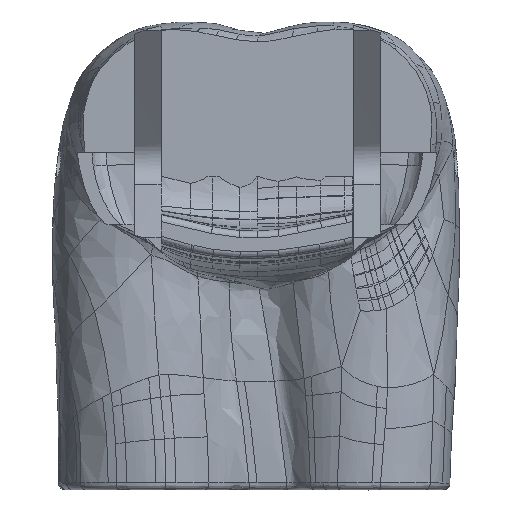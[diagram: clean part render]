
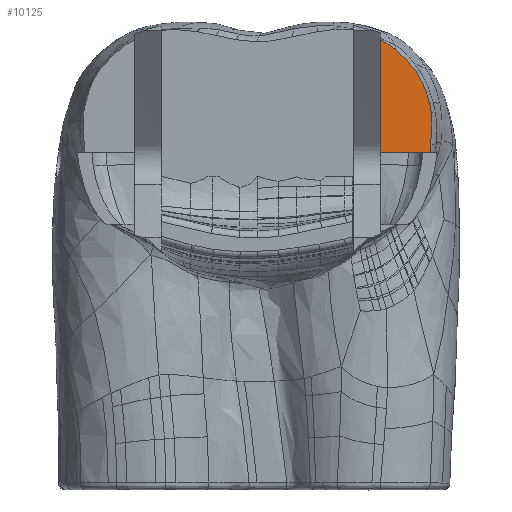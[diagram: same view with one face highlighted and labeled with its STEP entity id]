
A CAD part, top view. The second image highlights one B-rep face of the part: STEP entity #10125.
In plain terms, the highlighted planar face has unit normal (0, 0, 1).
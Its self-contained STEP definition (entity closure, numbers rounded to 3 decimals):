
#100=PLANE('',#10790);
#193=FACE_OUTER_BOUND('',#879,.T.);
#879=EDGE_LOOP('',(#6431,#6432,#6433,#6434,#6435,#6436,#6437,#6438));
#1724=B_SPLINE_CURVE_WITH_KNOTS('',3,(#18071,#18072,#18073,#18074,#18075,
#18076,#18077,#18078,#18079,#18080,#18081,#18082,#18083,#18084,#18085,#18086),
 .UNSPECIFIED.,.F.,.F.,(4,3,3,3,3,4),(0.,0.187,0.375,
0.531,0.687,1.),.UNSPECIFIED.);
#1725=B_SPLINE_CURVE_WITH_KNOTS('',3,(#18088,#18089,#18090,#18091,#18092,
#18093,#18094,#18095,#18096,#18097),.UNSPECIFIED.,.F.,.F.,(4,3,3,4),(0.,
0.089,0.544,1.),.UNSPECIFIED.);
#1726=B_SPLINE_CURVE_WITH_KNOTS('',3,(#18102,#18103,#18104,#18105),
 .UNSPECIFIED.,.F.,.F.,(4,4),(0.,1.),.UNSPECIFIED.);
#1727=B_SPLINE_CURVE_WITH_KNOTS('',3,(#18107,#18108,#18109,#18110,#18111,
#18112,#18113,#18114,#18115,#18116,#18117,#18118,#18119,#18120,#18121,#18122,
#18123,#18124,#18125,#18126,#18127,#18128),.UNSPECIFIED.,.F.,.F.,(4,3,3,
3,3,3,3,4),(-1.,-0.828,-0.657,-0.606,
-0.555,-0.416,-0.277,0.),
 .UNSPECIFIED.);
#1728=B_SPLINE_CURVE_WITH_KNOTS('',3,(#18130,#18131,#18132,#18133),
 .UNSPECIFIED.,.F.,.F.,(4,4),(-1.,0.),.UNSPECIFIED.);
#1729=B_SPLINE_CURVE_WITH_KNOTS('',3,(#18134,#18135,#18136,#18137,#18138,
#18139,#18140,#18141,#18142,#18143),.UNSPECIFIED.,.F.,.F.,(4,3,3,4),(-1.,
-0.492,-0.136,0.),.UNSPECIFIED.);
#3121=LINE('',#18098,#3184);
#3122=LINE('',#18100,#3185);
#3184=VECTOR('',#10959,72.659);
#3185=VECTOR('',#10960,31.893);
#3417=VERTEX_POINT('',#18058);
#3422=VERTEX_POINT('',#18069);
#3423=VERTEX_POINT('',#18070);
#3424=VERTEX_POINT('',#18087);
#3425=VERTEX_POINT('',#18099);
#3426=VERTEX_POINT('',#18101);
#3427=VERTEX_POINT('',#18106);
#3428=VERTEX_POINT('',#18129);
#4534=EDGE_CURVE('',#3422,#3423,#1724,.T.);
#4535=EDGE_CURVE('',#3424,#3422,#1725,.T.);
#4536=EDGE_CURVE('',#3424,#3417,#3121,.F.);
#4537=EDGE_CURVE('',#3425,#3417,#3122,.T.);
#4538=EDGE_CURVE('',#3426,#3425,#1726,.T.);
#4539=EDGE_CURVE('',#3427,#3426,#1727,.T.);
#4540=EDGE_CURVE('',#3428,#3427,#1728,.T.);
#4541=EDGE_CURVE('',#3423,#3428,#1729,.T.);
#6431=ORIENTED_EDGE('',*,*,#4534,.F.);
#6432=ORIENTED_EDGE('',*,*,#4535,.F.);
#6433=ORIENTED_EDGE('',*,*,#4536,.T.);
#6434=ORIENTED_EDGE('',*,*,#4537,.F.);
#6435=ORIENTED_EDGE('',*,*,#4538,.F.);
#6436=ORIENTED_EDGE('',*,*,#4539,.F.);
#6437=ORIENTED_EDGE('',*,*,#4540,.F.);
#6438=ORIENTED_EDGE('',*,*,#4541,.F.);
#10125=ADVANCED_FACE('',(#193),#100,.F.);
#10790=AXIS2_PLACEMENT_3D('',#18068,#10957,#10958);
#10957=DIRECTION('center_axis',(0.,0.,-1.));
#10958=DIRECTION('ref_axis',(-1.,0.,0.));
#10959=DIRECTION('',(0.,1.,0.));
#10960=DIRECTION('',(-1.,0.,0.));
#18058=CARTESIAN_POINT('',(79.615,-83.94,-44.473));
#18068=CARTESIAN_POINT('Origin',(0.,-150.457,-44.473));
#18069=CARTESIAN_POINT('',(89.352,-17.809,-44.469));
#18070=CARTESIAN_POINT('',(102.8,-31.617,-44.473));
#18071=CARTESIAN_POINT('Ctrl Pts',(89.354,-17.808,-44.473));
#18072=CARTESIAN_POINT('Ctrl Pts',(90.295,-18.566,-44.473));
#18073=CARTESIAN_POINT('Ctrl Pts',(91.208,-19.359,-44.473));
#18074=CARTESIAN_POINT('Ctrl Pts',(92.098,-20.176,-44.473));
#18075=CARTESIAN_POINT('Ctrl Pts',(92.987,-20.992,-44.473));
#18076=CARTESIAN_POINT('Ctrl Pts',(93.854,-21.832,-44.473));
#18077=CARTESIAN_POINT('Ctrl Pts',(94.705,-22.685,-44.473));
#18078=CARTESIAN_POINT('Ctrl Pts',(95.415,-23.398,-44.473));
#18079=CARTESIAN_POINT('Ctrl Pts',(96.115,-24.12,-44.473));
#18080=CARTESIAN_POINT('Ctrl Pts',(96.805,-24.851,-44.473));
#18081=CARTESIAN_POINT('Ctrl Pts',(97.495,-25.582,-44.473));
#18082=CARTESIAN_POINT('Ctrl Pts',(98.176,-26.321,-44.473));
#18083=CARTESIAN_POINT('Ctrl Pts',(98.849,-27.068,-44.473));
#18084=CARTESIAN_POINT('Ctrl Pts',(100.193,-28.56,-44.473));
#18085=CARTESIAN_POINT('Ctrl Pts',(101.506,-30.08,-44.473));
#18086=CARTESIAN_POINT('Ctrl Pts',(102.798,-31.615,-44.473));
#18087=CARTESIAN_POINT('',(79.623,-11.281,-44.473));
#18088=CARTESIAN_POINT('Ctrl Pts',(79.623,-11.281,-44.473));
#18089=CARTESIAN_POINT('Ctrl Pts',(79.942,-11.421,-44.473));
#18090=CARTESIAN_POINT('Ctrl Pts',(80.254,-11.579,-44.473));
#18091=CARTESIAN_POINT('Ctrl Pts',(80.563,-11.742,-44.473));
#18092=CARTESIAN_POINT('Ctrl Pts',(82.14,-12.577,-44.473));
#18093=CARTESIAN_POINT('Ctrl Pts',(83.63,-13.558,-44.473));
#18094=CARTESIAN_POINT('Ctrl Pts',(85.103,-14.566,-44.473));
#18095=CARTESIAN_POINT('Ctrl Pts',(86.577,-15.575,-44.473));
#18096=CARTESIAN_POINT('Ctrl Pts',(88.036,-16.611,-44.473));
#18097=CARTESIAN_POINT('Ctrl Pts',(89.334,-17.83,-44.473));
#18098=CARTESIAN_POINT('',(79.623,-83.94,-44.473));
#18099=CARTESIAN_POINT('',(111.528,-83.942,-44.48));
#18100=CARTESIAN_POINT('',(111.512,-83.94,-44.473));
#18101=CARTESIAN_POINT('',(111.923,-79.358,-44.477));
#18102=CARTESIAN_POINT('Ctrl Pts',(111.92,-79.36,-44.473));
#18103=CARTESIAN_POINT('Ctrl Pts',(111.921,-80.892,-44.473));
#18104=CARTESIAN_POINT('Ctrl Pts',(111.731,-82.417,-44.473));
#18105=CARTESIAN_POINT('Ctrl Pts',(111.508,-83.937,-44.473));
#18106=CARTESIAN_POINT('',(112.359,-58.182,-44.473));
#18107=CARTESIAN_POINT('Ctrl Pts',(112.359,-58.182,-44.473));
#18108=CARTESIAN_POINT('Ctrl Pts',(112.489,-59.386,-44.473));
#18109=CARTESIAN_POINT('Ctrl Pts',(112.558,-60.595,-44.473));
#18110=CARTESIAN_POINT('Ctrl Pts',(112.592,-61.807,-44.473));
#18111=CARTESIAN_POINT('Ctrl Pts',(112.626,-63.019,-44.473));
#18112=CARTESIAN_POINT('Ctrl Pts',(112.623,-64.233,-44.473));
#18113=CARTESIAN_POINT('Ctrl Pts',(112.608,-65.447,-44.473));
#18114=CARTESIAN_POINT('Ctrl Pts',(112.604,-65.809,-44.473));
#18115=CARTESIAN_POINT('Ctrl Pts',(112.598,-66.17,-44.473));
#18116=CARTESIAN_POINT('Ctrl Pts',(112.593,-66.532,-44.473));
#18117=CARTESIAN_POINT('Ctrl Pts',(112.587,-66.893,-44.473));
#18118=CARTESIAN_POINT('Ctrl Pts',(112.582,-67.255,-44.473));
#18119=CARTESIAN_POINT('Ctrl Pts',(112.575,-67.616,-44.473));
#18120=CARTESIAN_POINT('Ctrl Pts',(112.556,-68.596,-44.473));
#18121=CARTESIAN_POINT('Ctrl Pts',(112.526,-69.576,-44.473));
#18122=CARTESIAN_POINT('Ctrl Pts',(112.484,-70.555,-44.473));
#18123=CARTESIAN_POINT('Ctrl Pts',(112.441,-71.534,-44.473));
#18124=CARTESIAN_POINT('Ctrl Pts',(112.386,-72.513,-44.473));
#18125=CARTESIAN_POINT('Ctrl Pts',(112.325,-73.492,-44.473));
#18126=CARTESIAN_POINT('Ctrl Pts',(112.203,-75.448,-44.473));
#18127=CARTESIAN_POINT('Ctrl Pts',(112.056,-77.403,-44.473));
#18128=CARTESIAN_POINT('Ctrl Pts',(111.92,-79.358,-44.473));
#18129=CARTESIAN_POINT('',(111.089,-51.659,-44.473));
#18130=CARTESIAN_POINT('Ctrl Pts',(111.089,-51.659,-44.473));
#18131=CARTESIAN_POINT('Ctrl Pts',(111.791,-53.759,-44.473));
#18132=CARTESIAN_POINT('Ctrl Pts',(112.121,-55.979,-44.473));
#18133=CARTESIAN_POINT('Ctrl Pts',(112.359,-58.182,-44.473));
#18134=CARTESIAN_POINT('Ctrl Pts',(102.8,-31.617,-44.473));
#18135=CARTESIAN_POINT('Ctrl Pts',(104.859,-35.104,-44.473));
#18136=CARTESIAN_POINT('Ctrl Pts',(106.585,-38.543,-44.473));
#18137=CARTESIAN_POINT('Ctrl Pts',(107.978,-41.933,-44.473));
#18138=CARTESIAN_POINT('Ctrl Pts',(108.955,-44.312,-44.473));
#18139=CARTESIAN_POINT('Ctrl Pts',(109.768,-46.667,-44.473));
#18140=CARTESIAN_POINT('Ctrl Pts',(110.417,-48.997,-44.473));
#18141=CARTESIAN_POINT('Ctrl Pts',(110.665,-49.888,-44.473));
#18142=CARTESIAN_POINT('Ctrl Pts',(110.889,-50.775,-44.473));
#18143=CARTESIAN_POINT('Ctrl Pts',(111.089,-51.659,-44.473));
